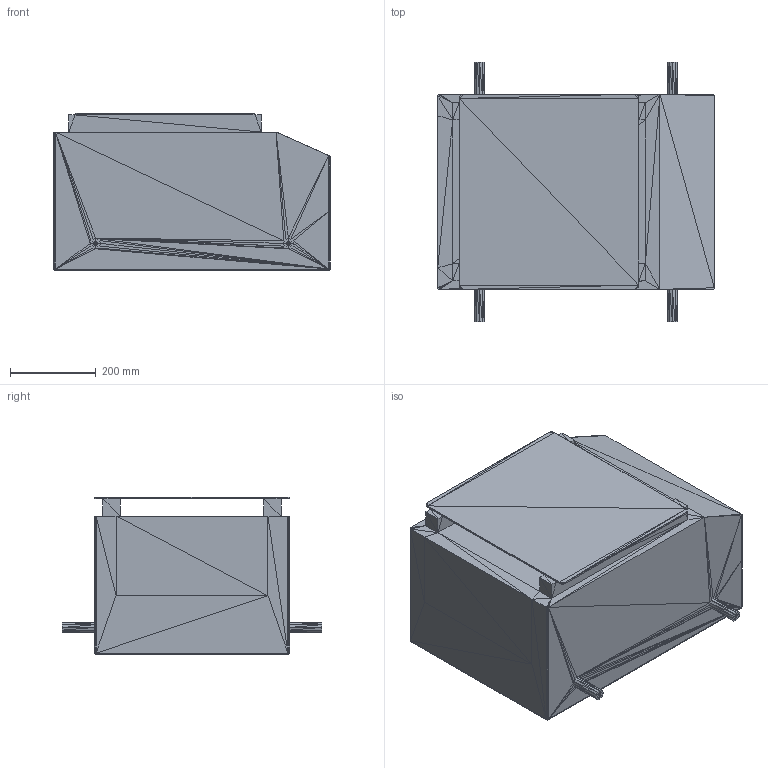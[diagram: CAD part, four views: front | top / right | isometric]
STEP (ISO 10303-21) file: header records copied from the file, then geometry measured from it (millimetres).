
FILE_DESCRIPTION(('Open CASCADE Model'),'2;1');
FILE_NAME('Open CASCADE Shape Model','2026-06-22T14:38:24',('Author'),( 'Open CASCADE'),'Open CASCADE STEP processor 7.9','Open CASCADE 7.9' ,'Unknown');
FILE_SCHEMA(('AUTOMOTIVE_DESIGN { 1 0 10303 214 1 1 1 1 }'));
Length unit declared in the file: millimetre
Products named in the file (1): Open CASCADE STEP translator 7.9 1
Bounding box: 646 x 606 x 368 mm (x, y, z)
Volume: 96143602.4 mm3; surface area: 1694009.6 mm2
Topology: 1 solids, 1 shells, 480 faces, 720 edges, 240 vertices
Faces by surface type: plane 480
Entity records: 18738 total; most frequent: DIRECTION 3122, CARTESIAN_POINT 2881, LINE 2160, VECTOR 2160, ORIENTED_EDGE 1440, PCURVE 1440, DEFINITIONAL_REPRESENTATION 1440, EDGE_CURVE 720
